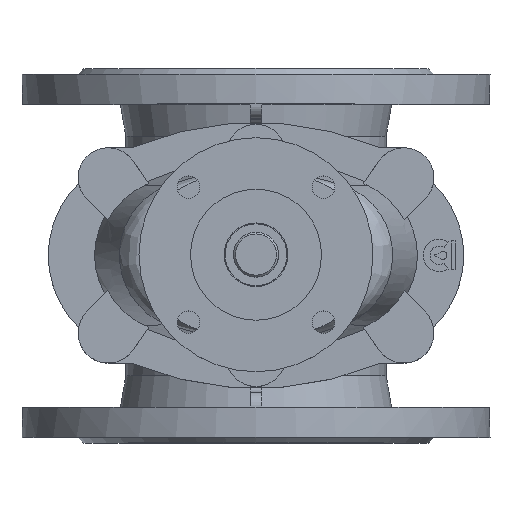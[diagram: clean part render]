
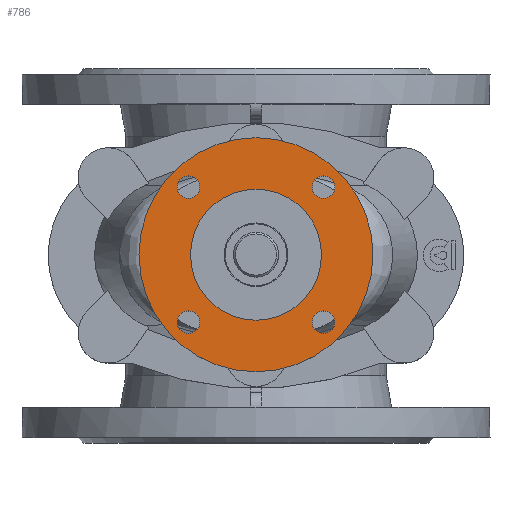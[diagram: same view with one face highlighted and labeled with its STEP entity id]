
A CAD part, top view. The second image highlights one B-rep face of the part: STEP entity #786.
In plain terms, the highlighted planar face has unit normal (0, 0, 1).
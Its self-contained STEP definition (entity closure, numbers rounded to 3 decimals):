
#786=ADVANCED_FACE('',(#2986,#2988,#2990,#2992,#2994,#2996),#2998,.T.);
#2986=FACE_BOUND('',#2987,.T.);
#2987=EDGE_LOOP('',(#5467));
#2988=FACE_BOUND('',#2989,.T.);
#2989=EDGE_LOOP('',(#5468));
#2990=FACE_BOUND('',#2991,.T.);
#2991=EDGE_LOOP('',(#5469));
#2992=FACE_BOUND('',#2993,.T.);
#2993=EDGE_LOOP('',(#5470));
#2994=FACE_BOUND('',#2995,.T.);
#2995=EDGE_LOOP('',(#5471));
#2996=FACE_BOUND('',#2997,.T.);
#2997=EDGE_LOOP('',(#5472));
#2998=PLANE('',#2999);
#2999=AXIS2_PLACEMENT_3D('',#3000,#3001,#3002);
#3000=CARTESIAN_POINT('',(0.,0.,391.));
#3001=DIRECTION('',(0.,0.,1.));
#3002=DIRECTION('',(-1.,0.,0.));
#5467=ORIENTED_EDGE('',*,*,#6581,.F.);
#5468=ORIENTED_EDGE('',*,*,#6582,.T.);
#5469=ORIENTED_EDGE('',*,*,#6583,.T.);
#5470=ORIENTED_EDGE('',*,*,#6584,.T.);
#5471=ORIENTED_EDGE('',*,*,#6591,.T.);
#5472=ORIENTED_EDGE('',*,*,#6585,.T.);
#6581=EDGE_CURVE('',#7381,#7381,#7382,.T.);
#6582=EDGE_CURVE('',#7383,#7383,#7384,.F.);
#6583=EDGE_CURVE('',#7385,#7385,#7386,.F.);
#6584=EDGE_CURVE('',#7387,#7387,#7388,.F.);
#6585=EDGE_CURVE('',#7389,#7389,#7390,.F.);
#6591=EDGE_CURVE('',#7397,#7397,#7398,.T.);
#7381=VERTEX_POINT('',#9382);
#7382=CIRCLE('',#9383,62.5);
#7383=VERTEX_POINT('',#9387);
#7384=CIRCLE('',#9388,6.);
#7385=VERTEX_POINT('',#9392);
#7386=CIRCLE('',#9393,6.);
#7387=VERTEX_POINT('',#9397);
#7388=CIRCLE('',#9398,6.);
#7389=VERTEX_POINT('',#9402);
#7390=CIRCLE('',#9403,6.);
#7397=VERTEX_POINT('',#9428);
#7398=CIRCLE('',#9429,35.);
#9382=CARTESIAN_POINT('',(-62.5,0.,391.));
#9383=AXIS2_PLACEMENT_3D('',#9384,#9385,#9386);
#9384=CARTESIAN_POINT('',(0.,0.,391.));
#9385=DIRECTION('',(0.,0.,-1.));
#9386=DIRECTION('',(-1.,0.,0.));
#9387=CARTESIAN_POINT('',(36.062,-30.062,391.));
#9388=AXIS2_PLACEMENT_3D('',#9389,#9390,#9391);
#9389=CARTESIAN_POINT('',(36.062,-36.062,391.));
#9390=DIRECTION('',(0.,0.,1.));
#9391=DIRECTION('',(0.,1.,0.));
#9392=CARTESIAN_POINT('',(-30.062,-36.062,391.));
#9393=AXIS2_PLACEMENT_3D('',#9394,#9395,#9396);
#9394=CARTESIAN_POINT('',(-36.062,-36.062,391.));
#9395=DIRECTION('',(0.,0.,1.));
#9396=DIRECTION('',(1.,0.,0.));
#9397=CARTESIAN_POINT('',(-36.062,30.062,391.));
#9398=AXIS2_PLACEMENT_3D('',#9399,#9400,#9401);
#9399=CARTESIAN_POINT('',(-36.062,36.062,391.));
#9400=DIRECTION('',(0.,0.,1.));
#9401=DIRECTION('',(0.,-1.,0.));
#9402=CARTESIAN_POINT('',(30.062,36.062,391.));
#9403=AXIS2_PLACEMENT_3D('',#9404,#9405,#9406);
#9404=CARTESIAN_POINT('',(36.062,36.062,391.));
#9405=DIRECTION('',(0.,0.,1.));
#9406=DIRECTION('',(-1.,0.,0.));
#9428=CARTESIAN_POINT('',(-35.,0.,391.));
#9429=AXIS2_PLACEMENT_3D('',#9430,#9431,#9432);
#9430=CARTESIAN_POINT('',(0.,0.,391.));
#9431=DIRECTION('',(0.,0.,-1.));
#9432=DIRECTION('',(-1.,0.,0.));
